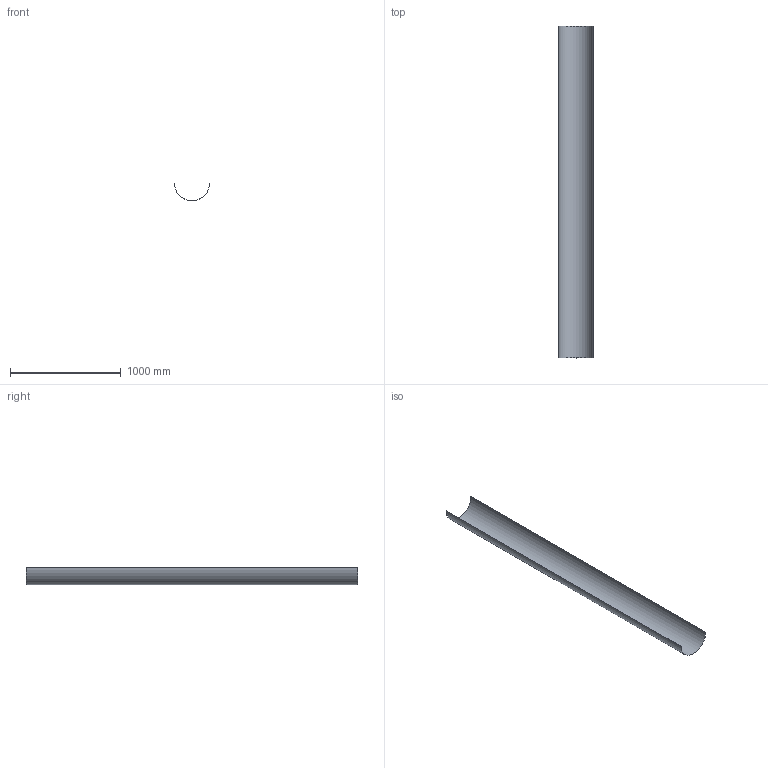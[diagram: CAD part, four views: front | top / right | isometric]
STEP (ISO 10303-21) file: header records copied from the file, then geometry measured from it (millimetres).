
FILE_DESCRIPTION(/* description */ (''),/* implementation_level */ '2;1');
FILE_NAME(/* name */ 'Z:\Geberit\Export\NewStep\372850.stp',/* time_stamp */ '2014-04-02T08:07:25+02:00',/* author */ ('bruh'),/* organization */ (''),/* preprocessor_version */ 'ST-DEVELOPER v15.2',/* originating_system */ 'Autodesk Inventor 2014',/* authorisation */ '');
FILE_SCHEMA (('AUTOMOTIVE_DESIGN { 1 0 10303 214 3 1 1 }'));
Length unit declared in the file: millimetre
Products named in the file (1): 372850
Bounding box: 316.5 x 3000 x 158.25 mm (x, y, z)
Volume: 1115952.6 mm3; surface area: 2981117.6 mm2
Topology: 1 solids, 1 shells, 6 faces, 12 edges, 8 vertices
Faces by surface type: plane 4, cylinder 2
Entity records: 187 total; most frequent: DIRECTION 30, CARTESIAN_POINT 27, ORIENTED_EDGE 24, EDGE_CURVE 12, AXIS2_PLACEMENT_3D 11, LINE 8, VECTOR 8, VERTEX_POINT 8
